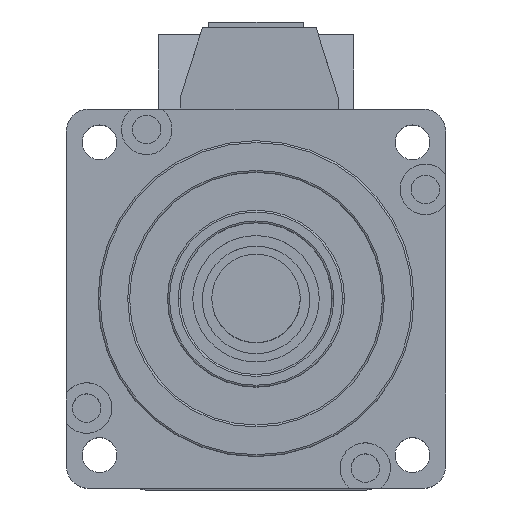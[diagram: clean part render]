
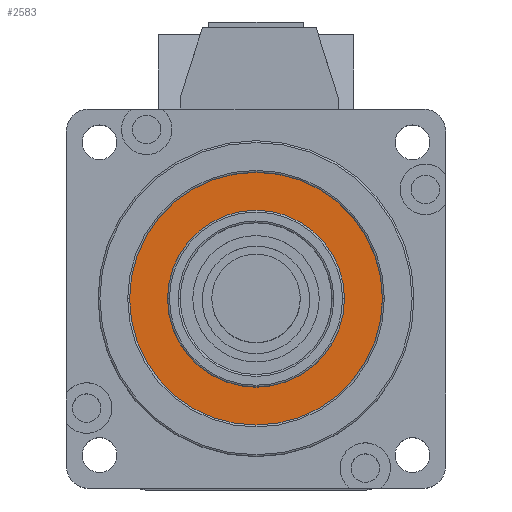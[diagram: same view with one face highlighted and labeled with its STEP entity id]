
A CAD part, top view. The second image highlights one B-rep face of the part: STEP entity #2583.
In plain terms, the highlighted planar face has unit normal (0, 0, 1).
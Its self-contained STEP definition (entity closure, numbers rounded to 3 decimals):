
#254 = DIRECTION ( 'NONE',  ( -1., 0., 0. ) ) ;
#270 = DIRECTION ( 'NONE',  ( 0., 0., 1. ) ) ;
#374 = PLANE ( 'NONE',  #1368 ) ;
#541 = ORIENTED_EDGE ( 'NONE', *, *, #6023, .F. ) ;
#678 = VERTEX_POINT ( 'NONE', #9216 ) ;
#815 = VERTEX_POINT ( 'NONE', #6277 ) ;
#1368 = AXIS2_PLACEMENT_3D ( 'NONE', #7815, #4797, #254 ) ;
#1588 = CARTESIAN_POINT ( 'NONE',  ( 30., 30., 0. ) ) ;
#1691 = CARTESIAN_POINT ( 'NONE',  ( 30., 30., 0. ) ) ;
#2091 = AXIS2_PLACEMENT_3D ( 'NONE', #7559, #3075, #3127 ) ;
#2173 = CARTESIAN_POINT ( 'NONE',  ( 50., 30., 0. ) ) ;
#2497 = DIRECTION ( 'NONE',  ( -1., 0., 0. ) ) ;
#2583 = ADVANCED_FACE ( 'NONE', ( #7351, #9566 ), #374, .F. ) ;
#2852 = EDGE_LOOP ( 'NONE', ( #4461, #541 ) ) ;
#3057 = DIRECTION ( 'NONE',  ( 0., 0., 1. ) ) ;
#3075 = DIRECTION ( 'NONE',  ( 0., 0., 1. ) ) ;
#3127 = DIRECTION ( 'NONE',  ( 1., 0., 0. ) ) ;
#3521 = ORIENTED_EDGE ( 'NONE', *, *, #5671, .T. ) ;
#3624 = AXIS2_PLACEMENT_3D ( 'NONE', #1691, #270, #5520 ) ;
#4010 = DIRECTION ( 'NONE',  ( 0., 0., 1. ) ) ;
#4239 = AXIS2_PLACEMENT_3D ( 'NONE', #1588, #4010, #2497 ) ;
#4362 = VERTEX_POINT ( 'NONE', #2173 ) ;
#4461 = ORIENTED_EDGE ( 'NONE', *, *, #5972, .F. ) ;
#4797 = DIRECTION ( 'NONE',  ( 0., 0., -1. ) ) ;
#5422 = CIRCLE ( 'NONE', #3624, 14. ) ;
#5520 = DIRECTION ( 'NONE',  ( -1., 0., 0. ) ) ;
#5671 = EDGE_CURVE ( 'NONE', #678, #4362, #7257, .T. ) ;
#5910 = VERTEX_POINT ( 'NONE', #7661 ) ;
#5972 = EDGE_CURVE ( 'NONE', #815, #5910, #8233, .T. ) ;
#6023 = EDGE_CURVE ( 'NONE', #5910, #815, #5422, .T. ) ;
#6277 = CARTESIAN_POINT ( 'NONE',  ( 16., 30., 0. ) ) ;
#6396 = CIRCLE ( 'NONE', #7657, 20. ) ;
#7257 = CIRCLE ( 'NONE', #2091, 20. ) ;
#7351 = FACE_OUTER_BOUND ( 'NONE', #9384, .T. ) ;
#7559 = CARTESIAN_POINT ( 'NONE',  ( 30., 30., 0. ) ) ;
#7657 = AXIS2_PLACEMENT_3D ( 'NONE', #7683, #3057, #9084 ) ;
#7661 = CARTESIAN_POINT ( 'NONE',  ( 44., 30., 0. ) ) ;
#7683 = CARTESIAN_POINT ( 'NONE',  ( 30., 30., 0. ) ) ;
#7815 = CARTESIAN_POINT ( 'NONE',  ( 3.5, 56.5, 0. ) ) ;
#7887 = EDGE_CURVE ( 'NONE', #4362, #678, #6396, .T. ) ;
#8233 = CIRCLE ( 'NONE', #4239, 14. ) ;
#8595 = ORIENTED_EDGE ( 'NONE', *, *, #7887, .T. ) ;
#9084 = DIRECTION ( 'NONE',  ( 1., 0., 0. ) ) ;
#9216 = CARTESIAN_POINT ( 'NONE',  ( 10., 30., 0. ) ) ;
#9384 = EDGE_LOOP ( 'NONE', ( #3521, #8595 ) ) ;
#9566 = FACE_BOUND ( 'NONE', #2852, .T. ) ;
